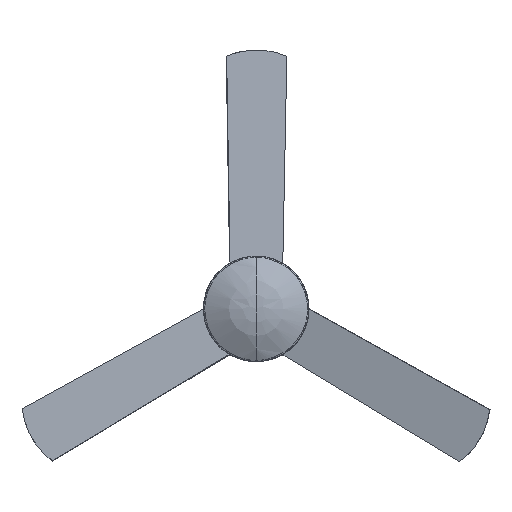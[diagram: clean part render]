
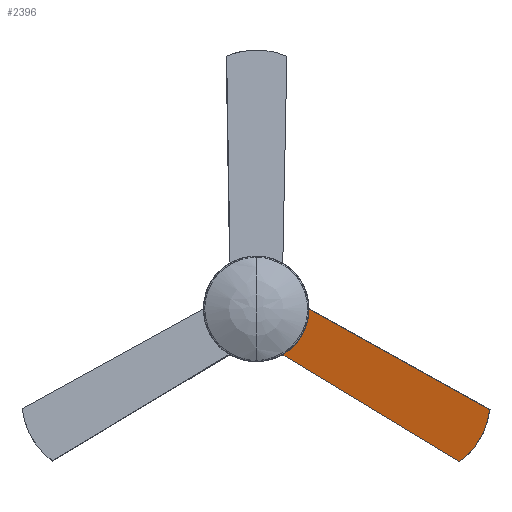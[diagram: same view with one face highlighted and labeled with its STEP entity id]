
A CAD part, top view. The second image highlights one B-rep face of the part: STEP entity #2396.
In plain terms, the highlighted planar face has unit normal (-0.087, -0.15, 0.985).
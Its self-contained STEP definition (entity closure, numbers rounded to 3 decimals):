
#124=PLANE('',#2583);
#221=FACE_OUTER_BOUND('',#384,.T.);
#384=EDGE_LOOP('',(#1683,#1684,#1685,#1686,#1687,#1688));
#554=LINE('',#3665,#750);
#558=LINE('',#3677,#754);
#562=LINE('',#3688,#758);
#750=VECTOR('',#2896,304.8);
#754=VECTOR('',#2908,304.8);
#758=VECTOR('',#2920,304.8);
#938=CIRCLE('',#2571,162.551);
#940=CIRCLE('',#2575,8.198);
#942=CIRCLE('',#2579,8.198);
#1062=VERTEX_POINT('',#3655);
#1063=VERTEX_POINT('',#3656);
#1066=VERTEX_POINT('',#3664);
#1068=VERTEX_POINT('',#3670);
#1070=VERTEX_POINT('',#3676);
#1072=VERTEX_POINT('',#3682);
#1281=EDGE_CURVE('',#1062,#1063,#938,.T.);
#1285=EDGE_CURVE('',#1066,#1062,#554,.T.);
#1288=EDGE_CURVE('',#1068,#1066,#940,.T.);
#1291=EDGE_CURVE('',#1070,#1068,#558,.T.);
#1294=EDGE_CURVE('',#1072,#1070,#942,.T.);
#1297=EDGE_CURVE('',#1063,#1072,#562,.T.);
#1683=ORIENTED_EDGE('',*,*,#1297,.T.);
#1684=ORIENTED_EDGE('',*,*,#1294,.T.);
#1685=ORIENTED_EDGE('',*,*,#1291,.T.);
#1686=ORIENTED_EDGE('',*,*,#1288,.T.);
#1687=ORIENTED_EDGE('',*,*,#1285,.T.);
#1688=ORIENTED_EDGE('',*,*,#1281,.T.);
#2396=ADVANCED_FACE('',(#221),#124,.T.);
#2571=AXIS2_PLACEMENT_3D('',#3657,#2888,#2889);
#2575=AXIS2_PLACEMENT_3D('',#3671,#2901,#2902);
#2579=AXIS2_PLACEMENT_3D('',#3683,#2913,#2914);
#2583=AXIS2_PLACEMENT_3D('',#3691,#2924,#2925);
#2888=DIRECTION('center_axis',(-0.087,-0.15,0.985));
#2889=DIRECTION('ref_axis',(-0.492,-0.853,-0.174));
#2896=DIRECTION('',(0.856,-0.517,-0.003));
#2901=DIRECTION('center_axis',(-0.087,-0.15,0.985));
#2902=DIRECTION('ref_axis',(0.492,0.853,0.174));
#2908=DIRECTION('',(-0.492,-0.853,-0.174));
#2913=DIRECTION('center_axis',(-0.087,-0.15,0.985));
#2914=DIRECTION('ref_axis',(-0.492,-0.853,-0.174));
#2920=DIRECTION('',(-0.874,0.486,-0.003));
#2924=DIRECTION('center_axis',(-0.087,-0.15,0.985));
#2925=DIRECTION('ref_axis',(-0.874,0.486,-0.003));
#3655=CARTESIAN_POINT('',(416.807,-313.14,177.323));
#3656=CARTESIAN_POINT('',(478.436,-206.395,199.057));
#3657=CARTESIAN_POINT('Origin',(317.698,-184.756,188.19));
#3664=CARTESIAN_POINT('',(34.361,-82.246,178.864));
#3665=CARTESIAN_POINT('',(34.361,-82.246,178.864));
#3670=CARTESIAN_POINT('',(35.12,-76.045,179.878));
#3671=CARTESIAN_POINT('Origin',(42.22,-80.144,179.878));
#3676=CARTESIAN_POINT('',(82.856,6.636,196.712));
#3677=CARTESIAN_POINT('',(82.856,6.636,196.712));
#3682=CARTESIAN_POINT('',(88.302,10.495,197.782));
#3683=CARTESIAN_POINT('Origin',(89.956,2.537,196.712));
#3688=CARTESIAN_POINT('',(478.436,-206.395,199.057));
#3691=CARTESIAN_POINT('Origin',(92.668,8.068,197.796));
